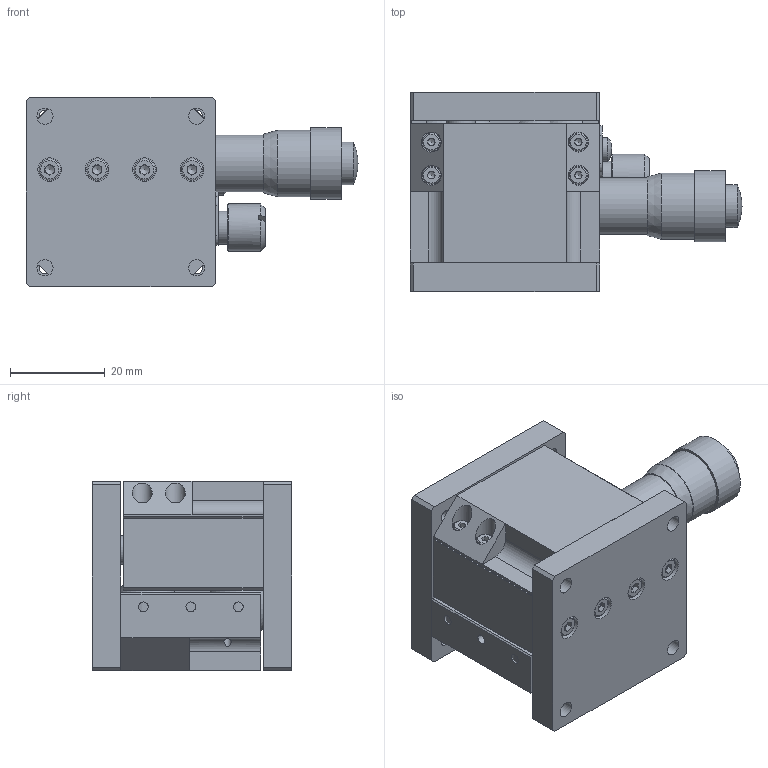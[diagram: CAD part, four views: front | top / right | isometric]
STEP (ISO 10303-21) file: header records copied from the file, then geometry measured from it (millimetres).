
FILE_DESCRIPTION (( 'STEP AP203' ), '1' );
FILE_NAME ('BLZ40-H.STEP', '2024-07-02T00:53:17', ( 'Windows User' ), ( 'P R C' ), 'SwSTEP 2.0', 'SolidWorks 2024', '' );
FILE_SCHEMA (( 'CONFIG_CONTROL_DESIGN' ));
Length unit declared in the file: millimetre
Products named in the file (1): BLZ40-H
Bounding box: 70.01 x 42 x 40 mm (x, y, z)
Volume: 59196.2 mm3; surface area: 40775.4 mm2
Topology: 31 solids, 31 shells, 829 faces, 1980 edges, 1262 vertices
Faces by surface type: plane 491, cylinder 216, cone 76, torus 21, bspline 21, sphere 4
Full cylindrical faces by diameter (mm): 1.6 x14, 2 x4, 2.05 x11, 2.5 x31, 2.55 x8, 2.95 x9, 3 x5, 3.1 x4, 3.4 x8, 3.8 x4, 4 x4, 4.2 x4, 4.4 x8, 4.5 x11, 5 x10, 6 x6, 6.35 x2, 7 x1, 8 x1, 8.5 x1, 9 x1, 9.5 x2, 10 x1, 12 x1, 13.6 x1, 14 x1, 15 x1
Entity records: 25925 total; most frequent: CARTESIAN_POINT 7860, DIRECTION 3728, ORIENTED_EDGE 3312, EDGE_CURVE 1656, AXIS2_PLACEMENT_3D 1393, EDGE_LOOP 1225, VERTEX_POINT 1179, FACE_OUTER_BOUND 977
